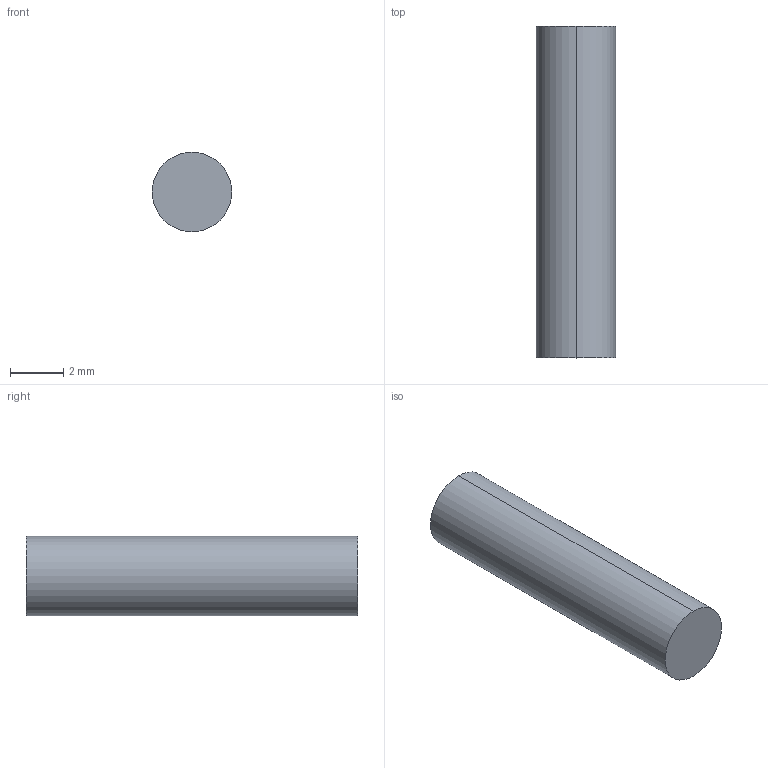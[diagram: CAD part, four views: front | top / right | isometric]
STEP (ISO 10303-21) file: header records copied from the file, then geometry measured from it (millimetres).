
FILE_DESCRIPTION (( 'STEP AP214' ), '1' );
FILE_NAME ('eixo_tvc.STEP', '2026-11-19T20:11:53', ( '' ), ( '' ), 'SwSTEP 2.0', 'SolidWorks 2026', '' );
FILE_SCHEMA (( 'AUTOMOTIVE_DESIGN' ));
Length unit declared in the file: millimetre
Products named in the file (1): eixo_tvc
Bounding box: 3 x 12.5 x 3 mm (x, y, z)
Volume: 88.4 mm3; surface area: 131.9 mm2
Topology: 1 solids, 1 shells, 4 faces, 6 edges, 4 vertices
Faces by surface type: cylinder 2, plane 2
Entity records: 117 total; most frequent: DIRECTION 20, CARTESIAN_POINT 15, ORIENTED_EDGE 12, AXIS2_PLACEMENT_3D 9, EDGE_CURVE 6, VERTEX_POINT 4, ADVANCED_FACE 4, EDGE_LOOP 4
